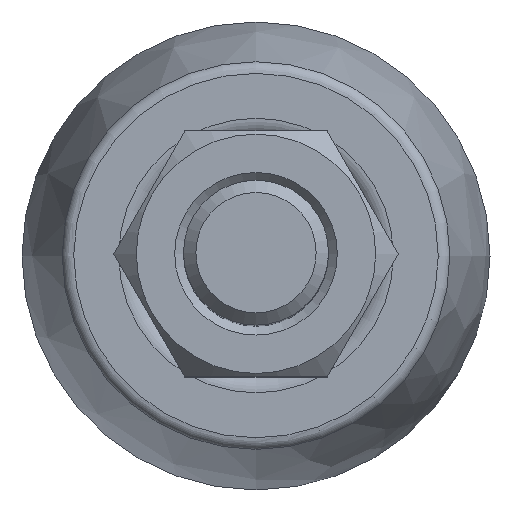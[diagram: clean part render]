
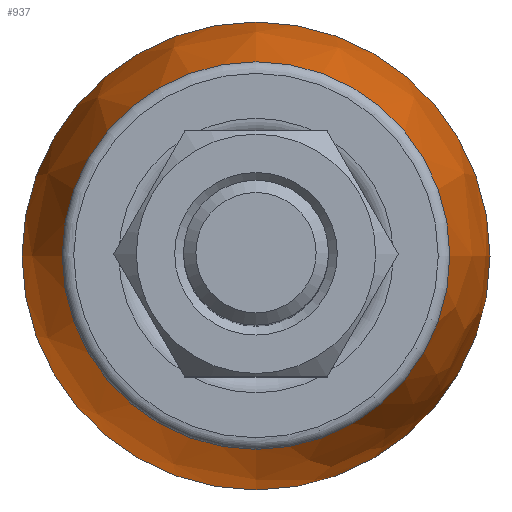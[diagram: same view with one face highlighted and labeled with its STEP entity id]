
A CAD part, top view. The second image highlights one B-rep face of the part: STEP entity #937.
In plain terms, the highlighted free-form (B-spline) face has degree [2, 2] with [3, 9] control points.
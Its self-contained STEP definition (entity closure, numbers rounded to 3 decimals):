
#15=(
BOUNDED_SURFACE()
B_SPLINE_SURFACE(2,2,((#2271,#2272,#2273,#2274,#2275,#2276,#2277,#2278,
#2279),(#2280,#2281,#2282,#2283,#2284,#2285,#2286,#2287,#2288),(#2289,#2290,
#2291,#2292,#2293,#2294,#2295,#2296,#2297)),.UNSPECIFIED.,.F.,.T.,.F.)
B_SPLINE_SURFACE_WITH_KNOTS((3,3),(3,2,2,2,3),(-0.338,0.),
(-3.142,-1.571,0.,1.571,3.142),
 .UNSPECIFIED.)
GEOMETRIC_REPRESENTATION_ITEM()
RATIONAL_B_SPLINE_SURFACE(((1.,0.707,1.,0.707,1.,
0.707,1.,0.707,1.),(0.986,0.697,
0.986,0.697,0.986,0.697,
0.986,0.697,0.986),(1.,0.707,
1.,0.707,1.,0.707,1.,0.707,1.)))
REPRESENTATION_ITEM('')
SURFACE()
);
#138=FACE_OUTER_BOUND('',#197,.T.);
#197=EDGE_LOOP('',(#725,#726,#727,#728));
#300=CIRCLE('',#1008,7.87);
#347=CIRCLE('',#1063,9.5);
#348=CIRCLE('',#1064,28.878);
#385=VERTEX_POINT('',#1760);
#445=VERTEX_POINT('',#2298);
#492=EDGE_CURVE('',#385,#385,#300,.T.);
#559=EDGE_CURVE('',#445,#445,#347,.T.);
#560=EDGE_CURVE('',#445,#385,#348,.T.);
#725=ORIENTED_EDGE('',*,*,#559,.T.);
#726=ORIENTED_EDGE('',*,*,#560,.T.);
#727=ORIENTED_EDGE('',*,*,#492,.T.);
#728=ORIENTED_EDGE('',*,*,#560,.F.);
#937=ADVANCED_FACE('',(#138),#15,.F.);
#1008=AXIS2_PLACEMENT_3D('',#1761,#1149,#1150);
#1063=AXIS2_PLACEMENT_3D('',#2299,#1264,#1265);
#1064=AXIS2_PLACEMENT_3D('',#2300,#1266,#1267);
#1149=DIRECTION('center_axis',(0.,0.,
-1.));
#1150=DIRECTION('ref_axis',(-1.,0.,0.));
#1264=DIRECTION('center_axis',(0.,0.,
1.));
#1265=DIRECTION('ref_axis',(-1.,0.,0.));
#1266=DIRECTION('center_axis',(0.,-1.,0.));
#1267=DIRECTION('ref_axis',(1.,0.,0.));
#1760=CARTESIAN_POINT('',(7.87,0.,9.566));
#1761=CARTESIAN_POINT('Origin',(0.,0.,
9.566));
#2271=CARTESIAN_POINT('Ctrl Pts',(7.87,0.,
9.566));
#2272=CARTESIAN_POINT('Ctrl Pts',(7.87,-7.87,9.566));
#2273=CARTESIAN_POINT('Ctrl Pts',(0.,-7.87,
9.566));
#2274=CARTESIAN_POINT('Ctrl Pts',(-7.87,-7.87,9.566));
#2275=CARTESIAN_POINT('Ctrl Pts',(-7.87,0.,
9.566));
#2276=CARTESIAN_POINT('Ctrl Pts',(-7.87,7.87,9.566));
#2277=CARTESIAN_POINT('Ctrl Pts',(0.,7.87,
9.566));
#2278=CARTESIAN_POINT('Ctrl Pts',(7.87,7.87,9.566));
#2279=CARTESIAN_POINT('Ctrl Pts',(7.87,0.,
9.566));
#2280=CARTESIAN_POINT('Ctrl Pts',(9.5,0.,
4.922));
#2281=CARTESIAN_POINT('Ctrl Pts',(9.5,-9.5,4.922));
#2282=CARTESIAN_POINT('Ctrl Pts',(0.,-9.5,
4.922));
#2283=CARTESIAN_POINT('Ctrl Pts',(-9.5,-9.5,4.922));
#2284=CARTESIAN_POINT('Ctrl Pts',(-9.5,0.,
4.922));
#2285=CARTESIAN_POINT('Ctrl Pts',(-9.5,9.5,4.922));
#2286=CARTESIAN_POINT('Ctrl Pts',(0.,9.5,
4.922));
#2287=CARTESIAN_POINT('Ctrl Pts',(9.5,9.5,4.922));
#2288=CARTESIAN_POINT('Ctrl Pts',(9.5,0.,
4.922));
#2289=CARTESIAN_POINT('Ctrl Pts',(9.5,0.,
0.));
#2290=CARTESIAN_POINT('Ctrl Pts',(9.5,-9.5,0.));
#2291=CARTESIAN_POINT('Ctrl Pts',(0.,-9.5,
0.));
#2292=CARTESIAN_POINT('Ctrl Pts',(-9.5,-9.5,0.));
#2293=CARTESIAN_POINT('Ctrl Pts',(-9.5,0.,
0.));
#2294=CARTESIAN_POINT('Ctrl Pts',(-9.5,9.5,0.));
#2295=CARTESIAN_POINT('Ctrl Pts',(0.,9.5,
0.));
#2296=CARTESIAN_POINT('Ctrl Pts',(9.5,9.5,0.));
#2297=CARTESIAN_POINT('Ctrl Pts',(9.5,0.,
0.));
#2298=CARTESIAN_POINT('',(9.5,0.,0.));
#2299=CARTESIAN_POINT('Origin',(0.,0.,
0.));
#2300=CARTESIAN_POINT('Origin',(-19.378,0.,
0.));
